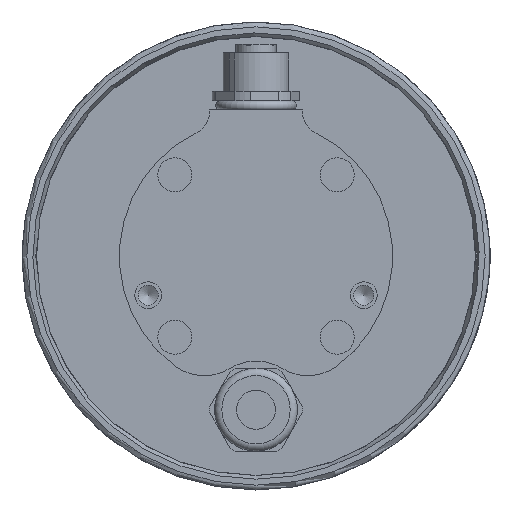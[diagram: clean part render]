
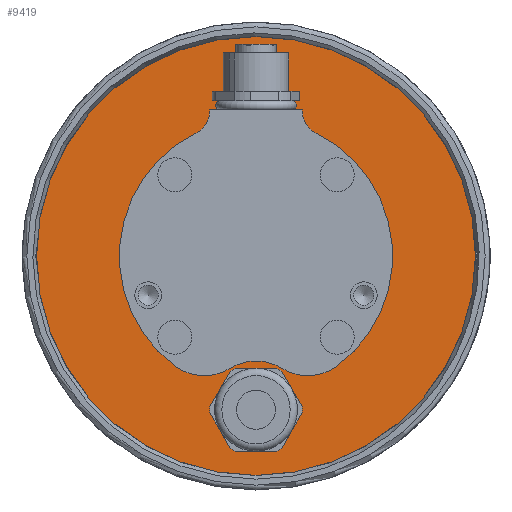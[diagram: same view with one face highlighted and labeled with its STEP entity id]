
A CAD part, left-side view. The second image highlights one B-rep face of the part: STEP entity #9419.
In plain terms, the highlighted planar face has unit normal (-1, 0, 0) as drawn and (1, 0, 0) by its records, which use the part's own axes.
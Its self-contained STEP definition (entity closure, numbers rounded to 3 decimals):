
#9419 = ADVANCED_FACE( '', ( #14282, #14283, #14284 ), #14285, .F. );
#14282 = FACE_BOUND( '', #27395, .T. );
#14283 = FACE_OUTER_BOUND( '', #27396, .T. );
#14284 = FACE_BOUND( '', #27397, .T. );
#14285 = PLANE( '', #27398 );
#27395 = EDGE_LOOP( '', ( #33325, #33326, #33327, #33328, #33329, #33330, #33331, #33332, #33333, #33334 ) );
#27396 = EDGE_LOOP( '', ( #33335 ) );
#27397 = EDGE_LOOP( '', ( #33336 ) );
#27398 = AXIS2_PLACEMENT_3D( '', #33337, #33338, #33339 );
#32086 = EDGE_CURVE( '', #40203, #40203, #40204, .T. );
#33325 = ORIENTED_EDGE( '', *, *, #41115, .F. );
#33326 = ORIENTED_EDGE( '', *, *, #41116, .T. );
#33327 = ORIENTED_EDGE( '', *, *, #41117, .T. );
#33328 = ORIENTED_EDGE( '', *, *, #41118, .T. );
#33329 = ORIENTED_EDGE( '', *, *, #41119, .T. );
#33330 = ORIENTED_EDGE( '', *, *, #41120, .T. );
#33331 = ORIENTED_EDGE( '', *, *, #41121, .F. );
#33332 = ORIENTED_EDGE( '', *, *, #41122, .T. );
#33333 = ORIENTED_EDGE( '', *, *, #41123, .T. );
#33334 = ORIENTED_EDGE( '', *, *, #41124, .T. );
#33335 = ORIENTED_EDGE( '', *, *, #41095, .F. );
#33336 = ORIENTED_EDGE( '', *, *, #32086, .F. );
#33337 = CARTESIAN_POINT( '', ( 3.9, 0., 8.5 ) );
#33338 = DIRECTION( '', ( -1., 0., 0. ) );
#33339 = DIRECTION( '', ( 0., 0., 1. ) );
#40203 = VERTEX_POINT( '', #51325 );
#40204 = CIRCLE( '', #51326, 7.188 );
#41095 = EDGE_CURVE( '', #52514, #52514, #52515, .T. );
#41115 = EDGE_CURVE( '', #52554, #52555, #52556, .F. );
#41116 = EDGE_CURVE( '', #52554, #52557, #52558, .F. );
#41117 = EDGE_CURVE( '', #52557, #52559, #52560, .T. );
#41118 = EDGE_CURVE( '', #52559, #52561, #52562, .T. );
#41119 = EDGE_CURVE( '', #52561, #52563, #52564, .T. );
#41120 = EDGE_CURVE( '', #52563, #52565, #52566, .F. );
#41121 = EDGE_CURVE( '', #52567, #52565, #52568, .F. );
#41122 = EDGE_CURVE( '', #52567, #52569, #52570, .T. );
#41123 = EDGE_CURVE( '', #52569, #52571, #52572, .T. );
#41124 = EDGE_CURVE( '', #52571, #52555, #52573, .T. );
#51325 = CARTESIAN_POINT( '', ( 3.9, 7.188, -31.5 ) );
#51326 = AXIS2_PLACEMENT_3D( '', #56695, #56696, #56697 );
#52514 = VERTEX_POINT( '', #57641 );
#52515 = CIRCLE( '', #57642, 44.95 );
#52554 = VERTEX_POINT( '', #57688 );
#52555 = VERTEX_POINT( '', #57689 );
#52556 = CIRCLE( '', #57690, 28. );
#52557 = VERTEX_POINT( '', #57691 );
#52558 = CIRCLE( '', #57692, 5. );
#52559 = VERTEX_POINT( '', #57693 );
#52560 = LINE( '', #57694, #57695 );
#52561 = VERTEX_POINT( '', #57696 );
#52562 = LINE( '', #57697, #57698 );
#52563 = VERTEX_POINT( '', #57699 );
#52564 = LINE( '', #57700, #57701 );
#52565 = VERTEX_POINT( '', #57702 );
#52566 = CIRCLE( '', #57703, 5. );
#52567 = VERTEX_POINT( '', #57704 );
#52568 = CIRCLE( '', #57705, 28. );
#52569 = VERTEX_POINT( '', #57706 );
#52570 = CIRCLE( '', #57707, 10. );
#52571 = VERTEX_POINT( '', #57708 );
#52572 = CIRCLE( '', #57709, 10. );
#52573 = CIRCLE( '', #57710, 10. );
#56695 = CARTESIAN_POINT( '', ( 3.9, 0., -31.5 ) );
#56696 = DIRECTION( '', ( 1., 0., 0. ) );
#56697 = DIRECTION( '', ( 0., 1., 0. ) );
#57641 = CARTESIAN_POINT( '', ( 3.9, 0., 44.95 ) );
#57642 = AXIS2_PLACEMENT_3D( '', #58461, #58462, #58463 );
#57688 = CARTESIAN_POINT( '', ( 3.9, -12.303, 25.152 ) );
#57689 = CARTESIAN_POINT( '', ( 3.9, -16.498, -22.623 ) );
#57690 = AXIS2_PLACEMENT_3D( '', #58507, #58508, #58509 );
#57691 = CARTESIAN_POINT( '', ( 3.9, -9.5, 29.644 ) );
#57692 = AXIS2_PLACEMENT_3D( '', #58510, #58511, #58512 );
#57693 = CARTESIAN_POINT( '', ( 3.9, -9.5, 30. ) );
#57694 = CARTESIAN_POINT( '', ( 3.9, -9.5, 30. ) );
#57695 = VECTOR( '', #58513, 1000. );
#57696 = CARTESIAN_POINT( '', ( 3.9, 9.5, 30. ) );
#57697 = CARTESIAN_POINT( '', ( 3.9, -9.5, 30. ) );
#57698 = VECTOR( '', #58514, 1000. );
#57699 = CARTESIAN_POINT( '', ( 3.9, 9.5, 29.644 ) );
#57700 = CARTESIAN_POINT( '', ( 3.9, 9.5, 30. ) );
#57701 = VECTOR( '', #58515, 1000. );
#57702 = CARTESIAN_POINT( '', ( 3.9, 12.303, 25.152 ) );
#57703 = AXIS2_PLACEMENT_3D( '', #58516, #58517, #58518 );
#57704 = CARTESIAN_POINT( '', ( 3.9, 16.498, -22.623 ) );
#57705 = AXIS2_PLACEMENT_3D( '', #58519, #58520, #58521 );
#57706 = CARTESIAN_POINT( '', ( 3.9, 5.303, -23.022 ) );
#57707 = AXIS2_PLACEMENT_3D( '', #58522, #58523, #58524 );
#57708 = CARTESIAN_POINT( '', ( 3.9, -5.303, -23.022 ) );
#57709 = AXIS2_PLACEMENT_3D( '', #58525, #58526, #58527 );
#57710 = AXIS2_PLACEMENT_3D( '', #58528, #58529, #58530 );
#58461 = CARTESIAN_POINT( '', ( 3.9, 0., 0. ) );
#58462 = DIRECTION( '', ( -1., 0., 0. ) );
#58463 = DIRECTION( '', ( 0., 0., 1. ) );
#58507 = CARTESIAN_POINT( '', ( 3.9, 0., 0. ) );
#58508 = DIRECTION( '', ( -1., 0., 0. ) );
#58509 = DIRECTION( '', ( 0., 0., 1. ) );
#58510 = CARTESIAN_POINT( '', ( 3.9, -14.5, 29.644 ) );
#58511 = DIRECTION( '', ( -1., 0., 0. ) );
#58512 = DIRECTION( '', ( 0., 0., 1. ) );
#58513 = DIRECTION( '', ( 0., 0., 1. ) );
#58514 = DIRECTION( '', ( 0., 1., 0. ) );
#58515 = DIRECTION( '', ( 0., 0., -1. ) );
#58516 = CARTESIAN_POINT( '', ( 3.9, 14.5, 29.644 ) );
#58517 = DIRECTION( '', ( -1., 0., 0. ) );
#58518 = DIRECTION( '', ( 0., 0., 1. ) );
#58519 = CARTESIAN_POINT( '', ( 3.9, 0., 0. ) );
#58520 = DIRECTION( '', ( -1., 0., 0. ) );
#58521 = DIRECTION( '', ( 0., 0., 1. ) );
#58522 = CARTESIAN_POINT( '', ( 3.9, 10.606, -14.544 ) );
#58523 = DIRECTION( '', ( -1., 0., 0. ) );
#58524 = DIRECTION( '', ( 0., 0., 1. ) );
#58525 = CARTESIAN_POINT( '', ( 3.9, 0., -31.5 ) );
#58526 = DIRECTION( '', ( 1., 0., 0. ) );
#58527 = DIRECTION( '', ( 0., 1., 0. ) );
#58528 = CARTESIAN_POINT( '', ( 3.9, -10.606, -14.544 ) );
#58529 = DIRECTION( '', ( -1., 0., 0. ) );
#58530 = DIRECTION( '', ( 0., 0., 1. ) );
